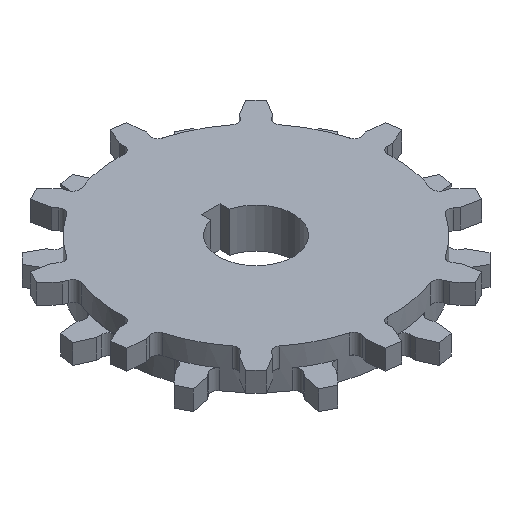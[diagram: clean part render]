
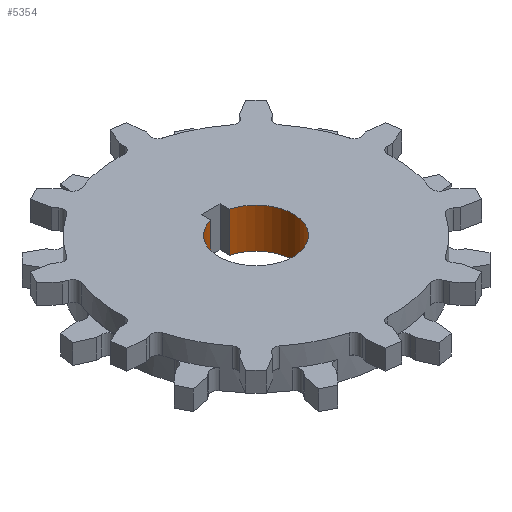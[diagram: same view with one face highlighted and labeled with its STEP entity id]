
A CAD part, isometric view. The second image highlights one B-rep face of the part: STEP entity #5354.
In plain terms, the highlighted cylindrical face has radius 19.05 mm (diameter 38.1 mm), a partial arc.
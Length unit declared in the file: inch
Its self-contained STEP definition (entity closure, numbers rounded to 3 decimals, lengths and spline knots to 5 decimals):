
#547=CARTESIAN_POINT('',(0.,0.,0.4025));
#548=DIRECTION('',(0.,0.,1.));
#549=DIRECTION('',(-0.25,0.968,0.));
#550=AXIS2_PLACEMENT_3D('',#547,#548,#549);
#1440=CARTESIAN_POINT('',(0.,0.,-0.4025));
#1441=DIRECTION('',(0.,0.,1.));
#1442=DIRECTION('',(-0.25,0.968,0.));
#1443=AXIS2_PLACEMENT_3D('',#1440,#1441,#1442);
#1955=DIRECTION('',(0.,0.,-1.));
#1956=VECTOR('',#1955,0.805);
#1957=CARTESIAN_POINT('',(0.1875,0.72618,0.4025));
#1958=LINE('',#1957,#1956);
#1959=DIRECTION('',(0.,0.,-1.));
#1960=VECTOR('',#1959,0.805);
#1961=CARTESIAN_POINT('',(-0.1875,0.72618,0.4025));
#1962=LINE('',#1961,#1960);
#2768=CARTESIAN_POINT('',(-0.1875,0.72618,0.4025));
#2770=VERTEX_POINT('',#2768);
#2771=CARTESIAN_POINT('',(0.1875,0.72618,0.4025));
#2772=VERTEX_POINT('',#2771);
#2776=CARTESIAN_POINT('',(-0.1875,0.72618,-0.4025));
#2778=VERTEX_POINT('',#2776);
#2779=CARTESIAN_POINT('',(0.1875,0.72618,-0.4025));
#2780=VERTEX_POINT('',#2779);
#5343=CARTESIAN_POINT('',(0.,0.,0.483));
#5344=DIRECTION('',(0.,0.,1.));
#5345=DIRECTION('',(1.,0.,0.));
#5346=AXIS2_PLACEMENT_3D('',#5343,#5344,#5345);
#5347=CYLINDRICAL_SURFACE('',#5346,0.75);
#5348=ORIENTED_EDGE('',*,*,#3301,.F.);
#5349=ORIENTED_EDGE('',*,*,#5312,.T.);
#5350=ORIENTED_EDGE('',*,*,#4411,.T.);
#5351=ORIENTED_EDGE('',*,*,#5336,.F.);
#5352=EDGE_LOOP('',(#5348,#5349,#5350,#5351));
#5353=FACE_OUTER_BOUND('',#5352,.F.);
#5354=ADVANCED_FACE('',(#5353),#5347,.F.);
#551=CIRCLE('',#550,0.75);
#1444=CIRCLE('',#1443,0.75);
#3301=EDGE_CURVE('',#2770,#2772,#551,.T.);
#4411=EDGE_CURVE('',#2778,#2780,#1444,.T.);
#5312=EDGE_CURVE('',#2770,#2778,#1962,.T.);
#5336=EDGE_CURVE('',#2772,#2780,#1958,.T.);
